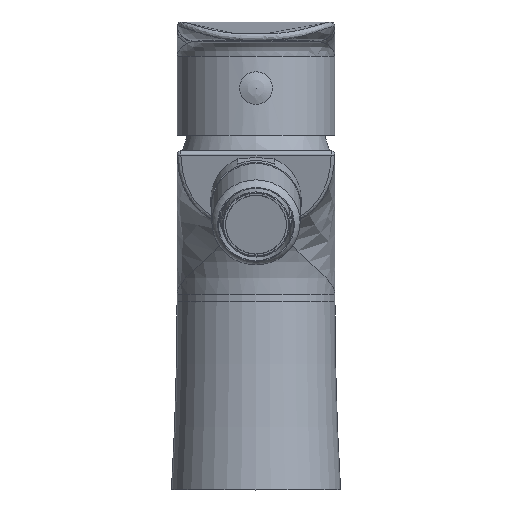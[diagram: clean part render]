
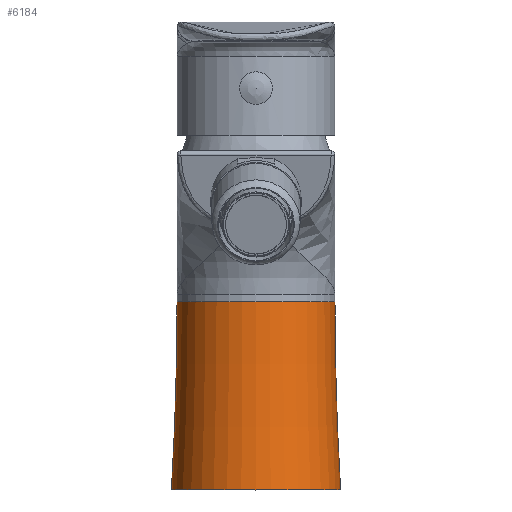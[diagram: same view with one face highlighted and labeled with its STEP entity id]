
A CAD part, top view. The second image highlights one B-rep face of the part: STEP entity #6184.
In plain terms, the highlighted toroidal (fillet/blend) face has major radius 855.083 mm and minor radius 834.083 mm.
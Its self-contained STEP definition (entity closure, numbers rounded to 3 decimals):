
#187=TOROIDAL_SURFACE('',#6777,855.083,834.083);
#565=FACE_OUTER_BOUND('',#954,.T.);
#954=EDGE_LOOP('',(#4884,#4885,#4886,#4887,#4888));
#1318=CIRCLE('',#6769,22.5);
#1319=CIRCLE('',#6770,22.5);
#1323=CIRCLE('',#6778,834.083);
#1324=CIRCLE('',#6779,21.);
#2623=VERTEX_POINT('',#21107);
#2624=VERTEX_POINT('',#21108);
#2628=VERTEX_POINT('',#21123);
#3405=EDGE_CURVE('',#2623,#2624,#1318,.T.);
#3406=EDGE_CURVE('',#2624,#2623,#1319,.T.);
#3412=EDGE_CURVE('',#2624,#2628,#1323,.T.);
#3413=EDGE_CURVE('',#2628,#2628,#1324,.T.);
#4884=ORIENTED_EDGE('',*,*,#3405,.T.);
#4885=ORIENTED_EDGE('',*,*,#3412,.T.);
#4886=ORIENTED_EDGE('',*,*,#3413,.F.);
#4887=ORIENTED_EDGE('',*,*,#3412,.F.);
#4888=ORIENTED_EDGE('',*,*,#3406,.T.);
#6184=ADVANCED_FACE('',(#565),#187,.F.);
#6769=AXIS2_PLACEMENT_3D('',#21109,#8044,#8045);
#6770=AXIS2_PLACEMENT_3D('',#21110,#8046,#8047);
#6777=AXIS2_PLACEMENT_3D('',#21122,#8062,#8063);
#6778=AXIS2_PLACEMENT_3D('',#21124,#8064,#8065);
#6779=AXIS2_PLACEMENT_3D('',#21125,#8066,#8067);
#8044=DIRECTION('center_axis',(0.,1.,0.));
#8045=DIRECTION('ref_axis',(0.,0.,1.));
#8046=DIRECTION('center_axis',(0.,1.,0.));
#8047=DIRECTION('ref_axis',(0.,0.,1.));
#8062=DIRECTION('center_axis',(0.,-1.,0.));
#8063=DIRECTION('ref_axis',(0.,0.,-1.));
#8064=DIRECTION('center_axis',(1.,0.,0.));
#8065=DIRECTION('ref_axis',(0.,0.,1.));
#8066=DIRECTION('center_axis',(0.,1.,0.));
#8067=DIRECTION('ref_axis',(0.,0.,1.));
#21107=CARTESIAN_POINT('',(58.428,8.284,-73.382));
#21108=CARTESIAN_POINT('',(58.428,8.284,-28.382));
#21109=CARTESIAN_POINT('Origin',(58.428,8.284,-50.882));
#21110=CARTESIAN_POINT('Origin',(58.428,8.284,-50.882));
#21122=CARTESIAN_POINT('Origin',(58.428,58.284,-50.882));
#21123=CARTESIAN_POINT('',(58.428,58.284,-29.882));
#21124=CARTESIAN_POINT('Origin',(58.428,58.284,804.202));
#21125=CARTESIAN_POINT('Origin',(58.428,58.284,-50.882));
